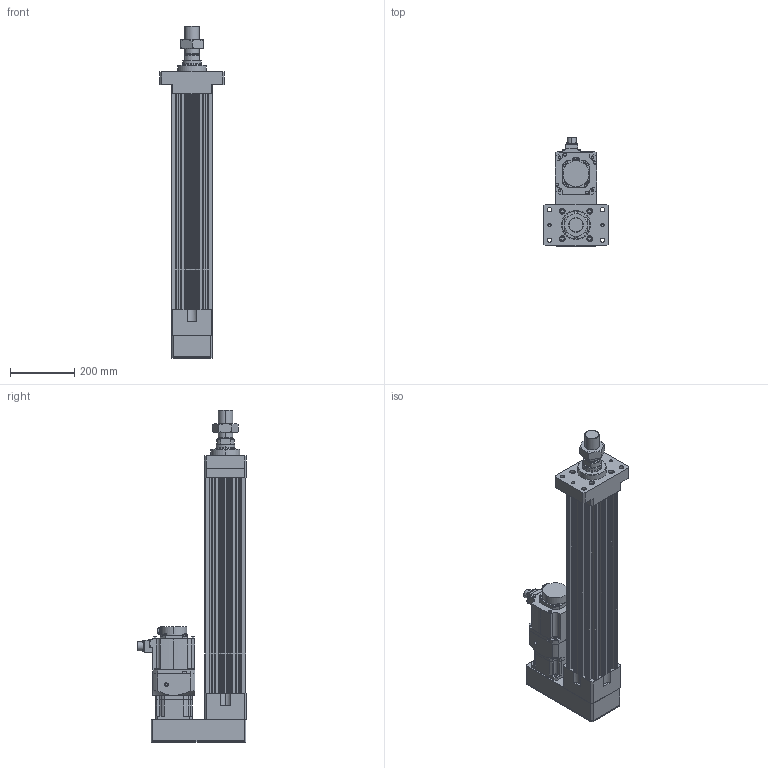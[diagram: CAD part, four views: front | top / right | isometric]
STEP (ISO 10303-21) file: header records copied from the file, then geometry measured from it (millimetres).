
FILE_DESCRIPTION (( 'STEP AP203' ), '1' );
FILE_NAME ('HES130NS(FS)(HS)-P450-W015G00-M-FMA.STEP', '2023-01-29T04:49:24', ( 'tms' ), ( '' ), 'SwSTEP 2.0', 'SolidWorks 2013', '' );
FILE_SCHEMA (( 'CONFIG_CONTROL_DESIGN' ));
Length unit declared in the file: millimetre
Products named in the file (8): HG-SR152; HES130NS(FS)(HS)-P450-W015G00-M-FMA; HES130 ROD M ST450; HES130-P450-G120-FMA; AB115-003[HG-SR152]; M45X1.5P; P0401400706; AB1151
Assembly tree (7 placements, depth 3):
  HES130NS(FS)(HS)-P450-W015G00-M-FMA
    HES130-P450-G120-FMA
    HES130 ROD M ST450
    M45X1.5P
    AB115-003[HG-SR152]
      AB1151
      P0401400706
    HG-SR152
Bounding box: 200 x 337.49 x 1032 mm (x, y, z)
Volume: 12042822.5 mm3; surface area: 1429692.9 mm2
Topology: 4 solids, 11 shells, 1082 faces, 2768 edges, 1799 vertices
Faces by surface type: cylinder 513, plane 489, cone 68, bspline 8, torus 4
Entity records: 34626 total; most frequent: CARTESIAN_POINT 6632, DIRECTION 5993, ORIENTED_EDGE 5484, EDGE_CURVE 2752, AXIS2_PLACEMENT_3D 2228, VERTEX_POINT 1799, VECTOR 1537, LINE 1537
